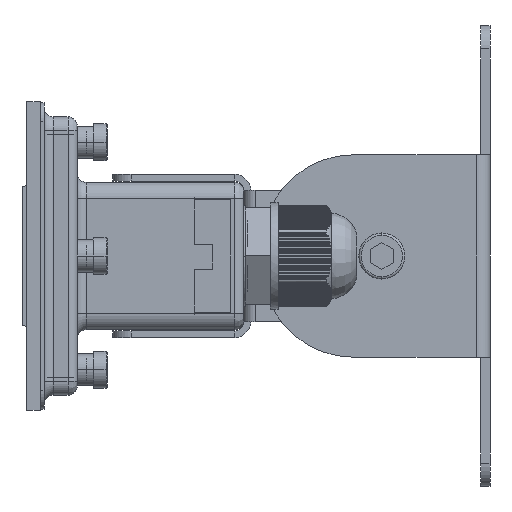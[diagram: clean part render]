
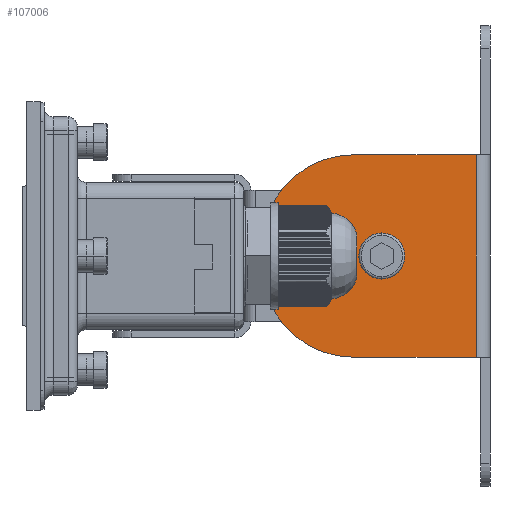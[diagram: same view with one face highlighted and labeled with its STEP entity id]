
A CAD part, left-side view. The second image highlights one B-rep face of the part: STEP entity #107006.
In plain terms, the highlighted planar face has unit normal (-1, 0, 0) as drawn and (0, 1, 0) by its records, which use the part's own axes.
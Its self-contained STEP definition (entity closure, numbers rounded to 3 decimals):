
#106109=CARTESIAN_POINT('',(0.,24.2,23.));
#106110=DIRECTION('',(0.,1.,0.));
#106111=DIRECTION('',(1.,0.,0.));
#106112=AXIS2_PLACEMENT_3D('',#106109,#106110,#106111);
#106114=CARTESIAN_POINT('',(0.,24.2,23.));
#106115=DIRECTION('',(0.,1.,0.));
#106116=DIRECTION('',(-1.,0.,0.));
#106117=AXIS2_PLACEMENT_3D('',#106114,#106115,#106116);
#106119=DIRECTION('',(1.,0.,0.));
#106120=VECTOR('',#106119,44.);
#106121=CARTESIAN_POINT('',(-22.,24.2,2.5));
#106122=LINE('',#106121,#106120);
#106123=DIRECTION('',(0.,0.,1.));
#106124=VECTOR('',#106123,26.598);
#106125=CARTESIAN_POINT('',(22.,24.2,2.5));
#106126=LINE('',#106125,#106124);
#106127=CARTESIAN_POINT('',(2.,24.2,29.098));
#106128=DIRECTION('',(0.,-1.,0.));
#106129=DIRECTION('',(1.,0.,0.));
#106130=AXIS2_PLACEMENT_3D('',#106127,#106128,#106129);
#106132=CARTESIAN_POINT('',(0.,24.2,19.3));
#106133=DIRECTION('',(0.,-1.,0.));
#106134=DIRECTION('',(0.2,0.,0.98));
#106135=AXIS2_PLACEMENT_3D('',#106132,#106133,#106134);
#106137=CARTESIAN_POINT('',(0.,24.2,19.3));
#106138=DIRECTION('',(0.,-1.,0.));
#106139=DIRECTION('',(0.,0.,1.));
#106140=AXIS2_PLACEMENT_3D('',#106137,#106138,#106139);
#106142=CARTESIAN_POINT('',(-2.,24.2,29.098));
#106143=DIRECTION('',(0.,-1.,0.));
#106144=DIRECTION('',(-0.2,0.,0.98));
#106145=AXIS2_PLACEMENT_3D('',#106142,#106143,#106144);
#106147=DIRECTION('',(0.,0.,-1.));
#106148=VECTOR('',#106147,26.598);
#106149=CARTESIAN_POINT('',(-22.,24.2,29.098));
#106150=LINE('',#106149,#106148);
#106533=CARTESIAN_POINT('',(-6.,24.2,48.694));
#106534=CARTESIAN_POINT('',(-22.,24.2,29.098));
#106535=VERTEX_POINT('',#106533);
#106536=VERTEX_POINT('',#106534);
#106537=CARTESIAN_POINT('',(22.,24.2,29.098));
#106538=CARTESIAN_POINT('',(6.,24.2,48.694));
#106539=VERTEX_POINT('',#106537);
#106540=VERTEX_POINT('',#106538);
#106541=CARTESIAN_POINT('',(0.,24.2,49.3));
#106542=VERTEX_POINT('',#106541);
#106543=CARTESIAN_POINT('',(3.25,24.2,23.));
#106544=CARTESIAN_POINT('',(-3.25,24.2,23.));
#106545=VERTEX_POINT('',#106543);
#106546=VERTEX_POINT('',#106544);
#106548=CARTESIAN_POINT('',(22.,24.2,2.5));
#106550=VERTEX_POINT('',#106548);
#106551=CARTESIAN_POINT('',(-22.,24.2,2.5));
#106552=VERTEX_POINT('',#106551);
#106983=CARTESIAN_POINT('',(22.,24.2,2.5));
#106984=DIRECTION('',(0.,-1.,0.));
#106985=DIRECTION('',(0.,0.,1.));
#106986=AXIS2_PLACEMENT_3D('',#106983,#106984,#106985);
#106987=PLANE('',#106986);
#106988=ORIENTED_EDGE('',*,*,#106880,.T.);
#106989=ORIENTED_EDGE('',*,*,#106900,.T.);
#106991=ORIENTED_EDGE('',*,*,#106990,.T.);
#106993=ORIENTED_EDGE('',*,*,#106992,.T.);
#106995=ORIENTED_EDGE('',*,*,#106994,.T.);
#106997=ORIENTED_EDGE('',*,*,#106996,.T.);
#106998=ORIENTED_EDGE('',*,*,#106861,.T.);
#106999=EDGE_LOOP('',(#106988,#106989,#106991,#106993,#106995,#106997,#106998));
#107000=FACE_OUTER_BOUND('',#106999,.F.);
#107001=ORIENTED_EDGE('',*,*,#106973,.T.);
#107003=ORIENTED_EDGE('',*,*,#107002,.T.);
#107004=EDGE_LOOP('',(#107001,#107003));
#107005=FACE_BOUND('',#107004,.F.);
#107006=ADVANCED_FACE('',(#107000,#107005),#106987,.F.);
#106113=CIRCLE('',#106112,3.25);
#106118=CIRCLE('',#106117,3.25);
#106131=CIRCLE('',#106130,20.);
#106136=CIRCLE('',#106135,30.);
#106141=CIRCLE('',#106140,30.);
#106146=CIRCLE('',#106145,20.);
#106861=EDGE_CURVE('',#106536,#106552,#106150,.T.);
#106880=EDGE_CURVE('',#106552,#106550,#106122,.T.);
#106900=EDGE_CURVE('',#106550,#106539,#106126,.T.);
#106973=EDGE_CURVE('',#106545,#106546,#106113,.T.);
#106990=EDGE_CURVE('',#106539,#106540,#106131,.T.);
#106992=EDGE_CURVE('',#106540,#106542,#106136,.T.);
#106994=EDGE_CURVE('',#106542,#106535,#106141,.T.);
#106996=EDGE_CURVE('',#106535,#106536,#106146,.T.);
#107002=EDGE_CURVE('',#106546,#106545,#106118,.T.);
